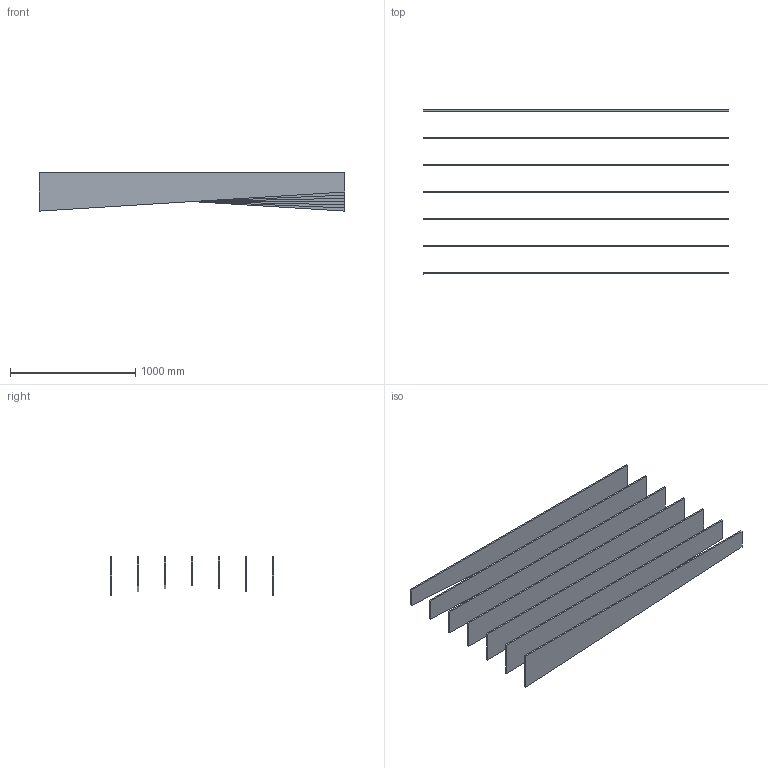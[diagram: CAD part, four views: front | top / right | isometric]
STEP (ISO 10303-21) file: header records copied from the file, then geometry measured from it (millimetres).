
FILE_DESCRIPTION(/* description */ (''),/* implementation_level */ '2;1');
FILE_NAME(/* name */ 'Topo Zig Full Simplified',/* time_stamp */ '2026-04-13T11:42:06-05:00',/* author */ (''),/* organization */ (''),/* preprocessor_version */ 'ST-DEVELOPER v19.2',/* originating_system */ 'Rhino 8.29',/* authorisation */ '');
FILE_SCHEMA (('CONFIG_CONTROL_DESIGN'));
Length unit declared in the file: inch
Products named in the file (1): Document
Bounding box: 2438.4 x 1308.1 x 304.8 mm (x, y, z)
Volume: 49554481.5 mm3; surface area: 8278236 mm2
Topology: 7 solids, 7 shells, 42 faces, 84 edges, 56 vertices
Faces by surface type: plane 42
Entity records: 1018 total; most frequent: CARTESIAN_POINT 268, ORIENTED_EDGE 168, EDGE_CURVE 84, B_SPLINE_CURVE_WITH_KNOTS 84, VERTEX_POINT 56, DIRECTION 46, AXIS2_PLACEMENT_3D 44, ADVANCED_FACE 42
